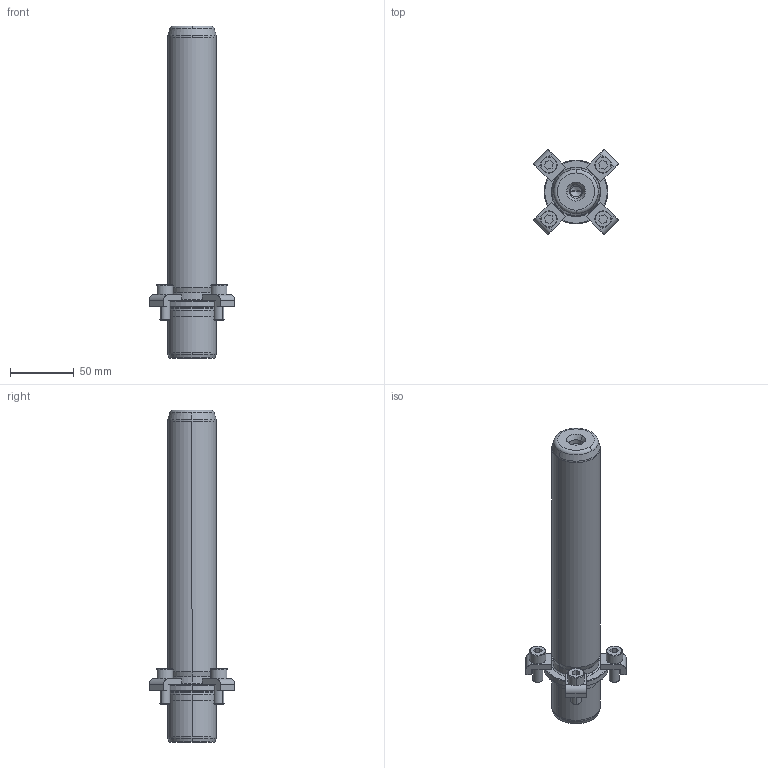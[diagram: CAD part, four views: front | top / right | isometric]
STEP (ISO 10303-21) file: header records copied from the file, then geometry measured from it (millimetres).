
FILE_DESCRIPTION((''),'2;1');
FILE_NAME('P21_038_220.stp','2008-12-23T10:56:14',(''),(''),'Mechanical Desktop 2009','Mechanical Desktop 2009',', , ');
FILE_SCHEMA(('CONFIG_CONTROL_DESIGN'));
Length unit declared in the file: millimetre
Products named in the file (2): Product; blmdl1
Assembly tree (1 placements, depth 2):
  Product
    blmdl1
Bounding box: 66.82 x 66.82 x 260 mm (x, y, z)
Volume: 305800.5 mm3; surface area: 45375.5 mm2
Topology: 9 solids, 9 shells, 195 faces, 477 edges, 309 vertices
Faces by surface type: plane 77, cylinder 52, cone 34, torus 16, bspline 16
Entity records: 6547 total; most frequent: CARTESIAN_POINT 1683, DIRECTION 1078, ORIENTED_EDGE 946, EDGE_CURVE 473, AXIS2_PLACEMENT_3D 424, VERTEX_POINT 309, CIRCLE 243, VECTOR 230
